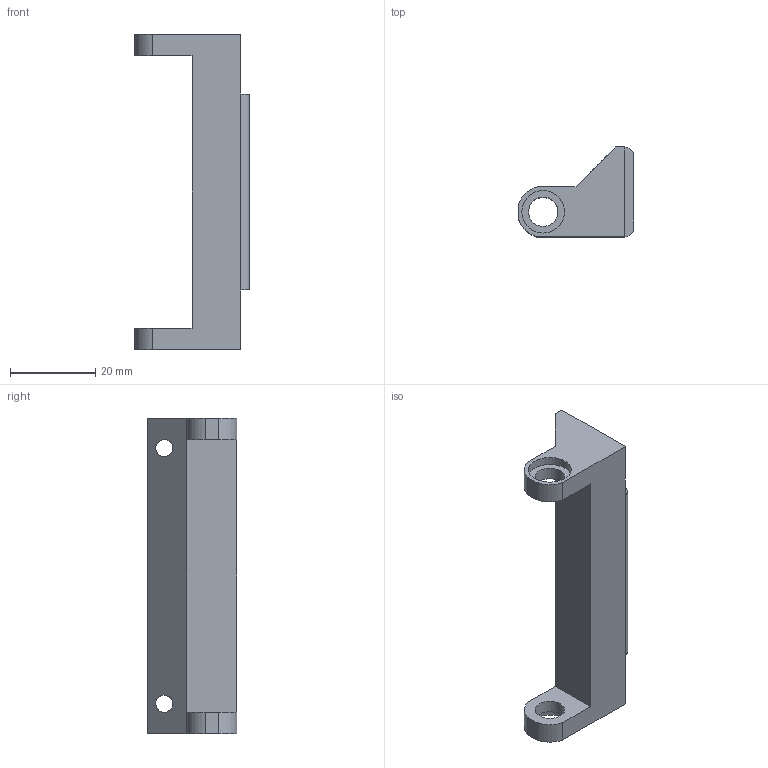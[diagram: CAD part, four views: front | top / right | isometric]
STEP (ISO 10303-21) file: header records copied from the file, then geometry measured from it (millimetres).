
FILE_DESCRIPTION(/* description */ ('Pressure Roller Holder'),/* implementation_level */ '2;1');
FILE_NAME(/* name */ 'Z:\Werkstatt Server\Projekte\Atlas\Entwicklung u. Konstruktion\Konstruktion\CAD Daten\ITkPixToolV2.0\Stencil Tool\ITPTv2.03.00.06.stp',/* time_stamp */ '2021-08-06T14:10:41+02:00',/* author */ ('Tim Kanngießer'),/* organization */ (''),/* preprocessor_version */ 'ST-DEVELOPER v18.1',/* originating_system */ 'Autodesk Inventor 2022',/* authorisation */ '');
FILE_SCHEMA (('AUTOMOTIVE_DESIGN { 1 0 10303 214 3 1 1 }'));
Length unit declared in the file: millimetre
Products named in the file (1): ITPTv2.03.00.06
Bounding box: 27 x 21 x 74 mm (x, y, z)
Volume: 16878.7 mm3; surface area: 6412.2 mm2
Topology: 1 solids, 1 shells, 39 faces, 95 edges, 60 vertices
Faces by surface type: plane 19, cylinder 16, cone 4
Full cylindrical faces by diameter (mm): 3.242 x2, 4 x4, 6.917 x2, 10 x2
Entity records: 1189 total; most frequent: DIRECTION 203, CARTESIAN_POINT 192, ORIENTED_EDGE 182, EDGE_CURVE 91, AXIS2_PLACEMENT_3D 72, VERTEX_POINT 60, LINE 59, VECTOR 59
